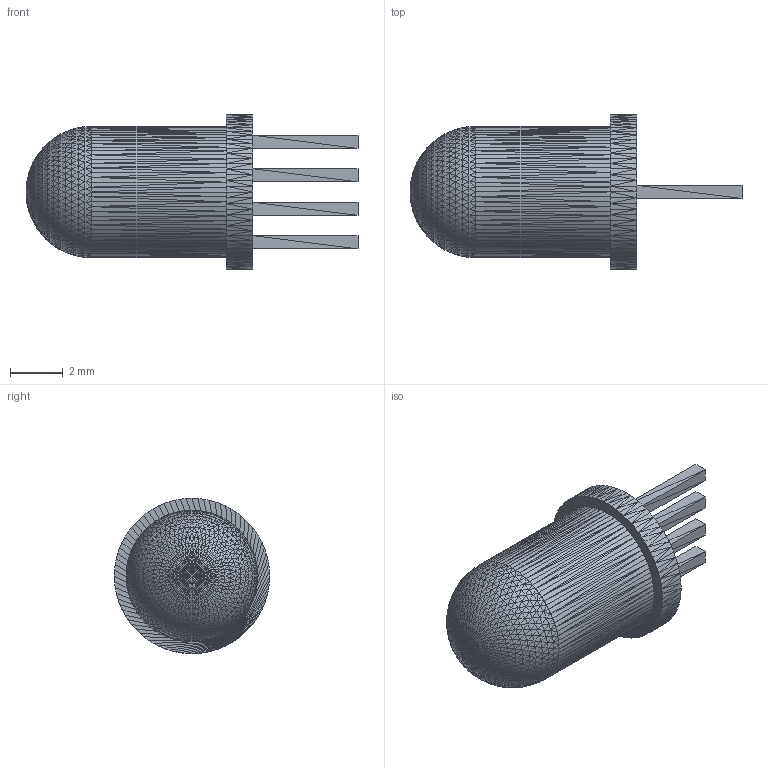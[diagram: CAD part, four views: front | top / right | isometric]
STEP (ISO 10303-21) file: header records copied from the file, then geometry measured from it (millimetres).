
FILE_DESCRIPTION(('Open CASCADE Model'),'2;1');
FILE_NAME('Open CASCADE Shape Model','2026-09-08T12:38:25',('Author'),( 'Open CASCADE'),'Open CASCADE STEP processor 7.7','Open CASCADE 7.7' ,'Unknown');
FILE_SCHEMA(('AUTOMOTIVE_DESIGN { 1 0 10303 214 1 1 1 1 }'));
Length unit declared in the file: millimetre
Products named in the file (8): Open CASCADE STEP translator 7.7 16; Open CASCADE STEP translator 7.7 16.1; Open CASCADE STEP translator 7.7 16.2; Open CASCADE STEP translator 7.7 16.3; Open CASCADE STEP translator 7.7 16.4; Open CASCADE STEP translator 7.7 16.5; Open CASCADE STEP translator 7.7 16.6; Open CASCADE STEP translator 7.7 16.7
Assembly tree (7 placements, depth 2):
  Open CASCADE STEP translator 7.7 16
    Open CASCADE STEP translator 7.7 16.1
    Open CASCADE STEP translator 7.7 16.2
    Open CASCADE STEP translator 7.7 16.3
    Open CASCADE STEP translator 7.7 16.4
    Open CASCADE STEP translator 7.7 16.5
    Open CASCADE STEP translator 7.7 16.6
    Open CASCADE STEP translator 7.7 16.7
Bounding box: 12.6 x 5.9 x 5.9 mm (x, y, z)
Volume: 164 mm3; surface area: 285.3 mm2
Topology: 7 solids, 7 shells, 2584 faces, 3876 edges, 1306 vertices
Faces by surface type: plane 2584
Entity records: 100960 total; most frequent: DIRECTION 16812, CARTESIAN_POINT 15526, LINE 11628, VECTOR 11628, ORIENTED_EDGE 7752, PCURVE 7752, DEFINITIONAL_REPRESENTATION 7752, EDGE_CURVE 3876
